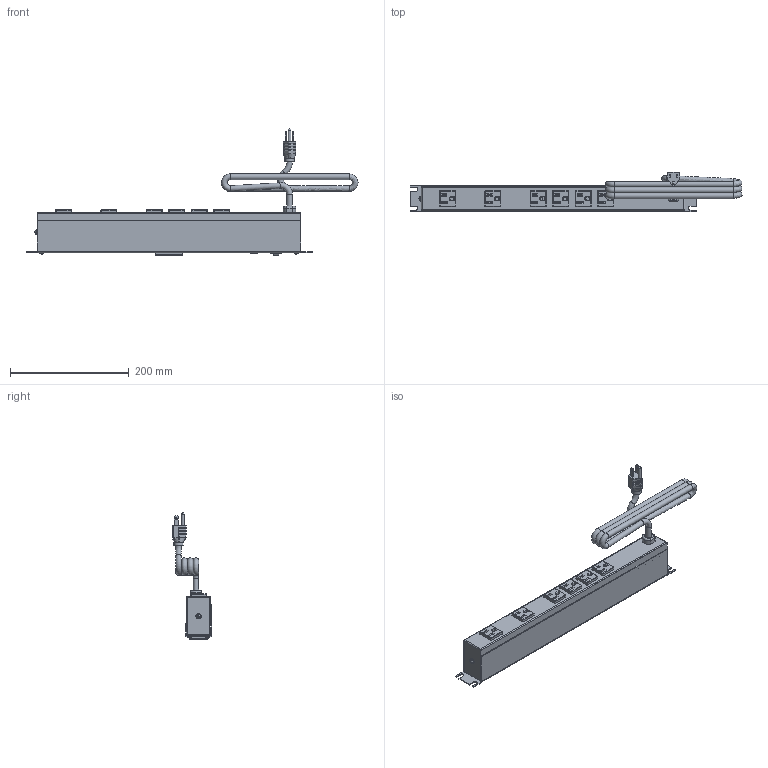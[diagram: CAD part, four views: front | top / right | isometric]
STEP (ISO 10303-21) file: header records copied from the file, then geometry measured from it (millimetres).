
FILE_DESCRIPTION((''),'2;1');
FILE_NAME('E:\Dutton\Manufacturing\drawings\Updated 2009\POWER BARS\1583 AM series\STEP''s\1583T6A1BKAM.stp','2010-01-12T15:42:04',('tfoster'),(''),'Autodesk Inventor 2010','Autodesk Inventor 2010','');
FILE_SCHEMA(('AUTOMOTIVE_DESIGN { 1 0 10303 214 1 1 1 1 }'));
Products named in the file (13): 1583T6A1BKAM; 1583 Front plate; Amp reader; Amp top; 2-56 x  1875 screw; 1583H6 Back Plate; #6 - 0.375 Type A screw; Reset Switch; toothwasher; round head 1-way 8-32 x 0.5 screw; Cored 2; Receptacle; Pilot light
Assembly tree (23 placements, depth 2):
  1583T6A1BKAM
    1583 Front plate
    Amp reader
    Amp top
    2-56 x  1875 screw  x4
    1583H6 Back Plate
    #6 - 0.375 Type A screw  x4
    Reset Switch
    toothwasher
    round head 1-way 8-32 x 0.5 screw
    Cored 2
    Receptacle  x6
    Pilot light
Bounding box: 560.01 x 66.07 x 213.78 mm (x, y, z)
Volume: 372968.1 mm3; surface area: 307458.2 mm2
Topology: 23 solids, 23 shells, 1113 faces, 3586 edges, 2534 vertices
Faces by surface type: plane 731, cylinder 185, bspline 93, cone 47, sphere 34, torus 23
Full cylindrical faces by diameter (mm): 1.803 x3, 1.905 x2, 2.362 x8, 2.997 x4, 3 x2, 4.242 x4, 4.3 x1, 4.775 x1, 4.801 x1, 5.563 x4, 7.849 x1, 9.5 x5, 11 x1, 15.621 x1
Entity records: 27271 total; most frequent: CARTESIAN_POINT 9694, ORIENTED_EDGE 3858, DIRECTION 3132, EDGE_CURVE 1929, VERTEX_POINT 1379, VECTOR 1194, LINE 1194, AXIS2_PLACEMENT_3D 969
